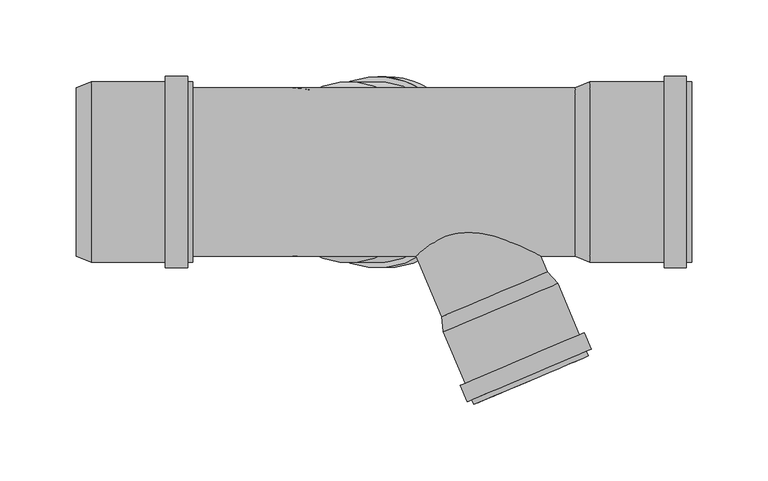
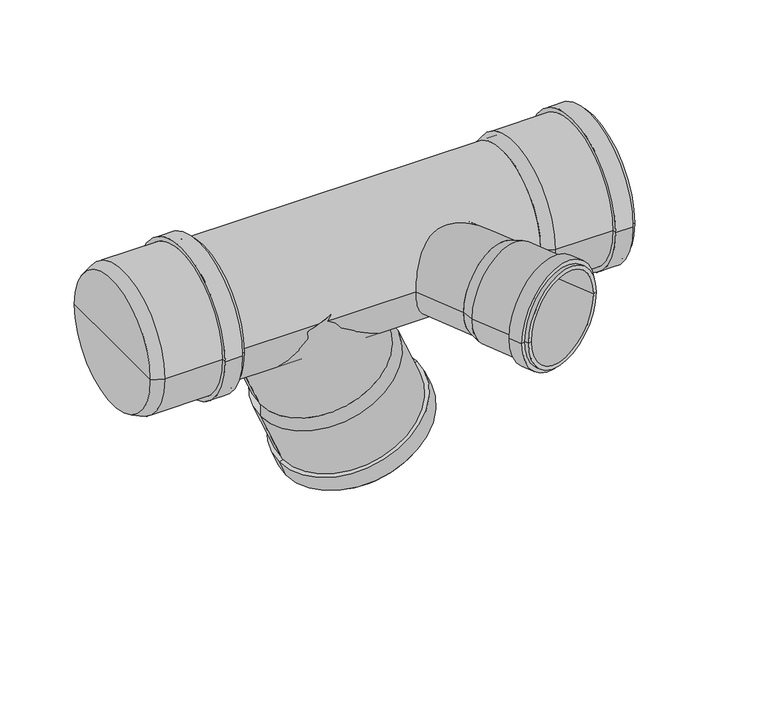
"""IFC4 building model written with IfcOpenShell, lengths in millimetres: pipe fitting geometry, pf_HTEP : pf_HTEP."""

from ifc_helpers import new_model, si_unit, point, frame, origin, origin_2d, place, context, project, spatial, polyline, circle_curve, trimmed, segment, composite_curve, outline, extrude, source, transform, mapped, element, save
from ifc_brep_helpers import plane_surface, cylinder_surface, revolved_surface, advanced_brep


def pipe_fitting_e290757c(model_context):
    return source(origin(), model_context, "Body", "SolidModel", [
        advanced_brep(
        [(-116.0017177, 0.0, -98.3523673), (-14.7461838, 0.0, -55.3719432), (-7.2601682, 0.0, -62.5147417), (-116.0638419, 0.0, -108.6991611), (-65.3739508, 0.0, -76.8621553), (-90.0802218, 0.0, -169.9127338), (18.7234518, 0.0, -123.7283144), (14.9493819, 0.0, -125.3303121), (-86.3061519, 0.0, -168.3107362), (-91.4087077, 0.0, -166.7830173), (17.394966, 0.0, -120.5985979), (-94.5384242, 0.0, -168.1115032), (20.5246825, 0.0, -119.2701121), (-100.2040255, 0.0, -154.7641828), (14.8590811, 0.0, -105.9227917), (-97.074309, 0.0, -153.4356969), (11.7293646, 0.0, -107.2512776), (-112.289772, 0.0, -107.0971634), (-11.0342381, 0.0, -64.1167393), (-61.6620051, 0.0, -85.6069514)],
        [
            (0, 1, circle_curve(frame((-65.3739508, 0.0, -76.8621553), z_axis=(0.39073112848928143, 0.0, -0.920504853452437), x_axis=(0.920504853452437, 0.0, 0.39073112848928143)), 55.0)),
            (1, 2),
            (2, 3, circle_curve(frame((-61.6620051, 0.0, -85.6069514), z_axis=(-0.39073112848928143, 0.0, 0.920504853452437), x_axis=(0.920504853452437, 0.0, 0.39073112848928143)), 59.1)),
            (3, 0),
            (1, 0, circle_curve(frame((-65.3739508, 0.0, -76.8621553), z_axis=(0.39073112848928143, 0.0, -0.920504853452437), x_axis=(0.920504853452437, 0.0, 0.39073112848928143)), 55.0)),
            (3, 2, circle_curve(frame((-61.6620051, 0.0, -85.6069514), z_axis=(-0.39073112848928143, 0.0, 0.920504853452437), x_axis=(0.920504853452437, 0.0, 0.39073112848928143)), 59.1)),
            (4, 1),
            (0, 4),
            (5, 6, circle_curve(frame((-35.678385, 0.0, -146.8205241), z_axis=(0.39073112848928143, 0.0, -0.920504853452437), x_axis=(0.920504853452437, 0.0, 0.39073112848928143)), 59.1)),
            (6, 7),
            (7, 8, circle_curve(frame((-35.678385, 0.0, -146.8205241), z_axis=(-0.39073112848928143, 0.0, 0.920504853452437), x_axis=(0.920504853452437, 0.0, 0.39073112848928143)), 55.0)),
            (8, 5),
            (6, 5, circle_curve(frame((-35.678385, 0.0, -146.8205241), z_axis=(0.39073112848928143, 0.0, -0.920504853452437), x_axis=(0.920504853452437, 0.0, 0.39073112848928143)), 59.1)),
            (8, 7, circle_curve(frame((-35.678385, 0.0, -146.8205241), z_axis=(-0.39073112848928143, 0.0, 0.920504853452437), x_axis=(0.920504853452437, 0.0, 0.39073112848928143)), 55.0)),
            (9, 10, circle_curve(frame((-37.0068708, 0.0, -143.6908076), z_axis=(0.39073112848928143, 0.0, -0.920504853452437), x_axis=(0.920504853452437, 0.0, 0.39073112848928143)), 59.1)),
            (10, 6),
            (5, 9),
            (10, 9, circle_curve(frame((-37.0068708, 0.0, -143.6908076), z_axis=(0.39073112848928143, 0.0, -0.920504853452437), x_axis=(0.920504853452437, 0.0, 0.39073112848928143)), 59.1)),
            (11, 12, circle_curve(frame((-37.0068708, 0.0, -143.6908076), z_axis=(0.39073112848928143, 0.0, -0.920504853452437), x_axis=(0.920504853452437, 0.0, 0.39073112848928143)), 62.5)),
            (12, 10),
            (9, 11),
            (12, 11, circle_curve(frame((-37.0068708, 0.0, -143.6908076), z_axis=(0.39073112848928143, 0.0, -0.920504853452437), x_axis=(0.920504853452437, 0.0, 0.39073112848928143)), 62.5)),
            (13, 14, circle_curve(frame((-42.6724722, 0.0, -130.3434872), z_axis=(0.39073112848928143, 0.0, -0.920504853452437), x_axis=(0.920504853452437, 0.0, 0.39073112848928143)), 62.5)),
            (14, 12),
            (11, 13),
            (14, 13, circle_curve(frame((-42.6724722, 0.0, -130.3434872), z_axis=(0.39073112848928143, 0.0, -0.920504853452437), x_axis=(0.920504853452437, 0.0, 0.39073112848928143)), 62.5)),
            (15, 16, circle_curve(frame((-42.6724722, 0.0, -130.3434872), z_axis=(0.39073112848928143, 0.0, -0.920504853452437), x_axis=(0.920504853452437, 0.0, 0.39073112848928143)), 59.1)),
            (16, 14),
            (13, 15),
            (16, 15, circle_curve(frame((-42.6724722, 0.0, -130.3434872), z_axis=(0.39073112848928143, 0.0, -0.920504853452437), x_axis=(0.920504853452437, 0.0, 0.39073112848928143)), 59.1)),
            (2, 16),
            (15, 3),
            (17, 18, circle_curve(frame((-61.6620051, 0.0, -85.6069514), z_axis=(0.39073112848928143, 0.0, -0.920504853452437), x_axis=(0.920504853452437, 0.0, 0.39073112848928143)), 55.0)),
            (18, 19),
            (19, 17),
            (18, 17, circle_curve(frame((-61.6620051, 0.0, -85.6069514), z_axis=(0.39073112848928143, 0.0, -0.920504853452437), x_axis=(0.920504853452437, 0.0, 0.39073112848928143)), 55.0)),
            (7, 18),
            (17, 8),
        ],
        [
            revolved_surface(polyline([(-7.2601682, 0.0, -62.5147417), (-14.7461838, 0.0, -55.3719432)]), (-65.3739508, 0.0, -76.8621553), (-0.39073112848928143, 0.0, 0.920504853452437)),
            plane_surface(frame((-65.3739508, 0.0, -76.8621553), z_axis=(-0.39073112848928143, 0.0, 0.920504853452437), x_axis=(0.920504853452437, 0.0, 0.39073112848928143))),
            plane_surface(frame((-35.678385, 0.0, -146.8205241), z_axis=(0.39073112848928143, 0.0, -0.920504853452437), x_axis=(0.920504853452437, 0.0, 0.39073112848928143))),
            cylinder_surface(frame((-65.3739508, 0.0, -76.8621553), z_axis=(-0.39073112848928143, 0.0, 0.920504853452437), x_axis=(0.920504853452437, 0.0, 0.39073112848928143)), 59.1),
            plane_surface(frame((-37.0068708, 0.0, -143.6908076), z_axis=(0.39073112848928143, 0.0, -0.920504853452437), x_axis=(0.920504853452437, 0.0, 0.39073112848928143))),
            cylinder_surface(frame((-65.3739508, 0.0, -76.8621553), z_axis=(-0.39073112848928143, 0.0, 0.920504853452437), x_axis=(0.920504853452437, 0.0, 0.39073112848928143)), 62.5),
            plane_surface(frame((-42.6724722, 0.0, -130.3434872), z_axis=(-0.39073112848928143, 0.0, 0.920504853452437), x_axis=(0.920504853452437, 0.0, 0.39073112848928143))),
            plane_surface(frame((-61.6620051, 0.0, -85.6069514), z_axis=(0.39073112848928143, 0.0, -0.920504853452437), x_axis=(0.920504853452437, 0.0, 0.39073112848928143))),
            revolved_surface(polyline([(-11.03423816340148, 0.0, -64.11673928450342), (14.949381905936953, 0.0, -125.33031209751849)]), (-65.3739508, 0.0, -76.8621553), (-0.39073112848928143, 0.0, 0.920504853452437)),
        ],
        [
            (0, [[1, 2, 3, 4]]),
            (0, [[5, -4, 6, -2]]),
            (1, [[7, -1, 8]]),
            (1, [[-8, -5, -7]]),
            (2, [[9, 10, 11, 12]]),
            (2, [[13, -12, 14, -10]]),
            (3, [[15, 16, -9, 17]]),
            (3, [[18, -17, -13, -16]]),
            (4, [[19, 20, -15, 21]]),
            (4, [[22, -21, -18, -20]]),
            (5, [[23, 24, -19, 25]]),
            (5, [[26, -25, -22, -24]]),
            (6, [[27, 28, -23, 29]]),
            (6, [[30, -29, -26, -28]]),
            (3, [[-3, 31, -27, 32]]),
            (3, [[-6, -32, -30, -31]]),
            (7, [[33, 34, 35]]),
            (7, [[36, -35, -34]]),
            (8, [[-11, 37, -33, 38]]),
            (8, [[-14, -38, -36, -37]]),
        ],
    ),
        advanced_brep(
        [(-0.6034701, -94.5522386, 0.0), (68.434394, -65.247404, 0.0), (74.9999047, -72.7809336, 0.0), (0.2549106, -104.5083012, 0.0), (33.915462, -79.8998213, 0.0), (20.3775637, -151.9143012, 0.0), (95.1225578, -120.1869335, 0.0), (92.2689928, -121.3982, 0.0), (23.2311288, -150.7030347, 0.0), (19.0490779, -148.7845847, 0.0), (93.794072, -117.057217, 0.0), (15.9193614, -150.1130705, 0.0), (96.9237885, -115.7287312, 0.0), (11.3868803, -139.4352142, 0.0), (92.3913074, -105.0508749, 0.0), (14.5165968, -138.1067284, 0.0), (89.2615909, -106.3793607, 0.0), (3.1084757, -103.2970347, 0.0), (72.1463397, -73.9922001, 0.0), (37.6274077, -88.6446174, 0.0)],
        [
            (0, 1, circle_curve(frame((33.915462, -79.8998213, 0.0), z_axis=(0.3907311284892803, -0.9205048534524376, 0.0), x_axis=(0.9205048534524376, 0.3907311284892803, 0.0)), 37.5)),
            (1, 2),
            (2, 3, circle_curve(frame((37.6274077, -88.6446174, 0.0), z_axis=(-0.3907311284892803, 0.9205048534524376, 0.0), x_axis=(0.9205048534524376, 0.3907311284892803, 0.0)), 40.6)),
            (3, 0),
            (1, 0, circle_curve(frame((33.915462, -79.8998213, 0.0), z_axis=(0.3907311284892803, -0.9205048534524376, 0.0), x_axis=(0.9205048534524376, 0.3907311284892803, 0.0)), 37.5)),
            (3, 2, circle_curve(frame((37.6274077, -88.6446174, 0.0), z_axis=(-0.3907311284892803, 0.9205048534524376, 0.0), x_axis=(0.9205048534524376, 0.3907311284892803, 0.0)), 40.6)),
            (4, 1),
            (0, 4),
            (5, 6, circle_curve(frame((57.7500608, -136.0506173, 0.0), z_axis=(0.3907311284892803, -0.9205048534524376, 0.0), x_axis=(0.9205048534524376, 0.3907311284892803, 0.0)), 40.6)),
            (6, 7),
            (7, 8, circle_curve(frame((57.7500608, -136.0506173, 0.0), z_axis=(-0.3907311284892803, 0.9205048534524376, 0.0), x_axis=(0.9205048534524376, 0.3907311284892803, 0.0)), 37.5)),
            (8, 5),
            (6, 5, circle_curve(frame((57.7500608, -136.0506173, 0.0), z_axis=(0.3907311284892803, -0.9205048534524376, 0.0), x_axis=(0.9205048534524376, 0.3907311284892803, 0.0)), 40.6)),
            (8, 7, circle_curve(frame((57.7500608, -136.0506173, 0.0), z_axis=(-0.3907311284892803, 0.9205048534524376, 0.0), x_axis=(0.9205048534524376, 0.3907311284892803, 0.0)), 37.5)),
            (9, 10, circle_curve(frame((56.421575, -132.9209008, 0.0), z_axis=(0.3907311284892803, -0.9205048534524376, 0.0), x_axis=(0.9205048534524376, 0.3907311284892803, 0.0)), 40.6)),
            (10, 6),
            (5, 9),
            (10, 9, circle_curve(frame((56.421575, -132.9209008, 0.0), z_axis=(0.3907311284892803, -0.9205048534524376, 0.0), x_axis=(0.9205048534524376, 0.3907311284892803, 0.0)), 40.6)),
            (11, 12, circle_curve(frame((56.421575, -132.9209008, 0.0), z_axis=(0.3907311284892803, -0.9205048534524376, 0.0), x_axis=(0.9205048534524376, 0.3907311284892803, 0.0)), 44.0)),
            (12, 10),
            (9, 11),
            (12, 11, circle_curve(frame((56.421575, -132.9209008, 0.0), z_axis=(0.3907311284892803, -0.9205048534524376, 0.0), x_axis=(0.9205048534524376, 0.3907311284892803, 0.0)), 44.0)),
            (13, 14, circle_curve(frame((51.8890939, -122.2430445, 0.0), z_axis=(0.3907311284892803, -0.9205048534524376, 0.0), x_axis=(0.9205048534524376, 0.3907311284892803, 0.0)), 44.0)),
            (14, 12),
            (11, 13),
            (14, 13, circle_curve(frame((51.8890939, -122.2430445, 0.0), z_axis=(0.3907311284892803, -0.9205048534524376, 0.0), x_axis=(0.9205048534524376, 0.3907311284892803, 0.0)), 44.0)),
            (15, 16, circle_curve(frame((51.8890939, -122.2430445, 0.0), z_axis=(0.3907311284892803, -0.9205048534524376, 0.0), x_axis=(0.9205048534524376, 0.3907311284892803, 0.0)), 40.6)),
            (16, 14),
            (13, 15),
            (16, 15, circle_curve(frame((51.8890939, -122.2430445, 0.0), z_axis=(0.3907311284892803, -0.9205048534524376, 0.0), x_axis=(0.9205048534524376, 0.3907311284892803, 0.0)), 40.6)),
            (2, 16),
            (15, 3),
            (17, 18, circle_curve(frame((37.6274077, -88.6446174, 0.0), z_axis=(0.3907311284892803, -0.9205048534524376, 0.0), x_axis=(0.9205048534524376, 0.3907311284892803, 0.0)), 37.5)),
            (18, 19),
            (19, 17),
            (18, 17, circle_curve(frame((37.6274077, -88.6446174, 0.0), z_axis=(0.3907311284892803, -0.9205048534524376, 0.0), x_axis=(0.9205048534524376, 0.3907311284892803, 0.0)), 37.5)),
            (7, 18),
            (17, 8),
        ],
        [
            revolved_surface(polyline([(74.9999047, -72.7809336, 0.0), (68.434394, -65.247404, 0.0)]), (33.915462, -79.8998213, 0.0), (-0.3907311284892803, 0.9205048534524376, 0.0)),
            plane_surface(frame((33.915462, -79.8998213, 0.0), z_axis=(-0.3907311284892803, 0.9205048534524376, 0.0), x_axis=(0.9205048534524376, 0.3907311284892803, 0.0))),
            plane_surface(frame((57.7500608, -136.0506173, 0.0), z_axis=(0.3907311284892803, -0.9205048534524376, 0.0), x_axis=(0.9205048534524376, 0.3907311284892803, 0.0))),
            cylinder_surface(frame((33.915462, -79.8998213, 0.0), z_axis=(-0.3907311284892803, 0.9205048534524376, 0.0), x_axis=(0.9205048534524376, 0.3907311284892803, 0.0)), 40.6),
            plane_surface(frame((56.421575, -132.9209008, 0.0), z_axis=(0.3907311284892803, -0.9205048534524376, 0.0), x_axis=(0.9205048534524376, 0.3907311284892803, 0.0))),
            cylinder_surface(frame((33.915462, -79.8998213, 0.0), z_axis=(-0.3907311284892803, 0.9205048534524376, 0.0), x_axis=(0.9205048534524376, 0.3907311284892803, 0.0)), 44.0),
            plane_surface(frame((51.8890939, -122.2430445, 0.0), z_axis=(-0.3907311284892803, 0.9205048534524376, 0.0), x_axis=(0.9205048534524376, 0.3907311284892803, 0.0))),
            plane_surface(frame((37.6274077, -88.6446174, 0.0), z_axis=(0.3907311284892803, -0.9205048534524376, 0.0), x_axis=(0.9205048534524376, 0.3907311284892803, 0.0))),
            revolved_surface(polyline([(72.14633971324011, -73.99220006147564, 0.0), (92.26899284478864, -121.39820004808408, 0.0)]), (33.915462, -79.8998213, 0.0), (-0.3907311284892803, 0.9205048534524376, 0.0)),
        ],
        [
            (0, [[1, 2, 3, 4]]),
            (0, [[5, -4, 6, -2]]),
            (1, [[7, -1, 8]]),
            (1, [[-8, -5, -7]]),
            (2, [[9, 10, 11, 12]]),
            (2, [[13, -12, 14, -10]]),
            (3, [[15, 16, -9, 17]]),
            (3, [[18, -17, -13, -16]]),
            (4, [[19, 20, -15, 21]]),
            (4, [[22, -21, -18, -20]]),
            (5, [[23, 24, -19, 25]]),
            (5, [[26, -25, -22, -24]]),
            (6, [[27, 28, -23, 29]]),
            (6, [[30, -29, -26, -28]]),
            (3, [[-3, 31, -27, 32]]),
            (3, [[-6, -32, -30, -31]]),
            (7, [[33, 34, 35]]),
            (7, [[36, -35, -34]]),
            (8, [[-11, 37, -33, 38]]),
            (8, [[-14, -38, -36, -37]]),
        ],
    ),
        advanced_brep(
        [(86.6, -55.0, 0.0), (86.6, 55.0, 0.0), (96.1, 59.1, 0.0), (96.1, -59.1, 0.0), (86.6, 0.0, 0.0), (162.6, -59.1, 0.0), (162.6, 59.1, 0.0), (162.6, 55.0, 0.0), (162.6, -55.0, 0.0), (159.2, -59.1, 0.0), (159.2, 59.1, 0.0), (159.2, -62.5, 0.0), (159.2, 62.5, 0.0), (144.7, -62.5, 0.0), (144.7, 62.5, 0.0), (144.7, -59.1, 0.0), (144.7, 59.1, 0.0), (96.1, -55.0, 0.0), (96.1, 55.0, 0.0), (96.1, 0.0, 0.0)],
        [
            (0, 1, circle_curve(frame((86.6, 0.0, 0.0), z_axis=(1.0, 0.0, 0.0), x_axis=(0.0, 1.0, 0.0)), 55.0)),
            (1, 2),
            (2, 3, circle_curve(frame((96.1, 0.0, 0.0), z_axis=(-1.0, 0.0, 0.0), x_axis=(0.0, 1.0, 0.0)), 59.1)),
            (3, 0),
            (1, 0, circle_curve(frame((86.6, 0.0, 0.0), z_axis=(1.0, 0.0, 0.0), x_axis=(0.0, 1.0, 0.0)), 55.0)),
            (3, 2, circle_curve(frame((96.1, 0.0, 0.0), z_axis=(-1.0, 0.0, 0.0), x_axis=(0.0, 1.0, 0.0)), 59.1)),
            (4, 1),
            (0, 4),
            (5, 6, circle_curve(frame((162.6, 0.0, 0.0), z_axis=(1.0, 0.0, 0.0), x_axis=(0.0, 1.0, 0.0)), 59.1)),
            (6, 7),
            (7, 8, circle_curve(frame((162.6, 0.0, 0.0), z_axis=(-1.0, 0.0, 0.0), x_axis=(0.0, 1.0, 0.0)), 55.0)),
            (8, 5),
            (6, 5, circle_curve(frame((162.6, 0.0, 0.0), z_axis=(1.0, 0.0, 0.0), x_axis=(0.0, 1.0, 0.0)), 59.1)),
            (8, 7, circle_curve(frame((162.6, 0.0, 0.0), z_axis=(-1.0, 0.0, 0.0), x_axis=(0.0, 1.0, 0.0)), 55.0)),
            (9, 10, circle_curve(frame((159.2, 0.0, 0.0), z_axis=(1.0, 0.0, 0.0), x_axis=(0.0, 1.0, 0.0)), 59.1)),
            (10, 6),
            (5, 9),
            (10, 9, circle_curve(frame((159.2, 0.0, 0.0), z_axis=(1.0, 0.0, 0.0), x_axis=(0.0, 1.0, 0.0)), 59.1)),
            (11, 12, circle_curve(frame((159.2, 0.0, 0.0), z_axis=(1.0, 0.0, 0.0), x_axis=(0.0, 1.0, 0.0)), 62.5)),
            (12, 10),
            (9, 11),
            (12, 11, circle_curve(frame((159.2, 0.0, 0.0), z_axis=(1.0, 0.0, 0.0), x_axis=(0.0, 1.0, 0.0)), 62.5)),
            (13, 14, circle_curve(frame((144.7, 0.0, 0.0), z_axis=(1.0, 0.0, 0.0), x_axis=(0.0, 1.0, 0.0)), 62.5)),
            (14, 12),
            (11, 13),
            (14, 13, circle_curve(frame((144.7, 0.0, 0.0), z_axis=(1.0, 0.0, 0.0), x_axis=(0.0, 1.0, 0.0)), 62.5)),
            (15, 16, circle_curve(frame((144.7, 0.0, 0.0), z_axis=(1.0, 0.0, 0.0), x_axis=(0.0, 1.0, 0.0)), 59.1)),
            (16, 14),
            (13, 15),
            (16, 15, circle_curve(frame((144.7, 0.0, 0.0), z_axis=(1.0, 0.0, 0.0), x_axis=(0.0, 1.0, 0.0)), 59.1)),
            (2, 16),
            (15, 3),
            (17, 18, circle_curve(frame((96.1, 0.0, 0.0), z_axis=(1.0, 0.0, 0.0), x_axis=(0.0, 1.0, 0.0)), 55.0)),
            (18, 19),
            (19, 17),
            (18, 17, circle_curve(frame((96.1, 0.0, 0.0), z_axis=(1.0, 0.0, 0.0), x_axis=(0.0, 1.0, 0.0)), 55.0)),
            (7, 18),
            (17, 8),
        ],
        [
            revolved_surface(polyline([(96.1, 59.1, 0.0), (86.6, 55.0, 0.0)]), (86.6, 0.0, 0.0), (-1.0, 0.0, 0.0)),
            plane_surface(frame((86.6, 0.0, 0.0), z_axis=(-1.0, 0.0, 0.0), x_axis=(0.0, 1.0, 0.0))),
            plane_surface(frame((162.6, 0.0, 0.0), z_axis=(1.0, 0.0, 0.0), x_axis=(0.0, 1.0, 0.0))),
            cylinder_surface(frame((86.6, 0.0, 0.0), z_axis=(-1.0, 0.0, 0.0), x_axis=(0.0, 1.0, 0.0)), 59.1),
            plane_surface(frame((159.2, 0.0, 0.0), z_axis=(1.0, 0.0, 0.0), x_axis=(0.0, 1.0, 0.0))),
            cylinder_surface(frame((86.6, 0.0, 0.0), z_axis=(-1.0, 0.0, 0.0), x_axis=(0.0, 1.0, 0.0)), 62.5),
            plane_surface(frame((144.7, 0.0, 0.0), z_axis=(-1.0, 0.0, 0.0), x_axis=(0.0, 1.0, 0.0))),
            plane_surface(frame((96.1, 0.0, 0.0), z_axis=(1.0, 0.0, 0.0), x_axis=(0.0, 1.0, 0.0))),
            revolved_surface(polyline([(96.1, 55.0, 0.0), (162.6, 55.0, 0.0)]), (86.6, 0.0, 0.0), (-1.0, 0.0, 0.0)),
        ],
        [
            (0, [[1, 2, 3, 4]]),
            (0, [[5, -4, 6, -2]]),
            (1, [[7, -1, 8]]),
            (1, [[-8, -5, -7]]),
            (2, [[9, 10, 11, 12]]),
            (2, [[13, -12, 14, -10]]),
            (3, [[15, 16, -9, 17]]),
            (3, [[18, -17, -13, -16]]),
            (4, [[19, 20, -15, 21]]),
            (4, [[22, -21, -18, -20]]),
            (5, [[23, 24, -19, 25]]),
            (5, [[26, -25, -22, -24]]),
            (6, [[27, 28, -23, 29]]),
            (6, [[30, -29, -26, -28]]),
            (3, [[-3, 31, -27, 32]]),
            (3, [[-6, -32, -30, -31]]),
            (7, [[33, 34, 35]]),
            (7, [[36, -35, -34]]),
            (8, [[-11, 37, -33, 38]]),
            (8, [[-14, -38, -36, -37]]),
        ],
    ),
        advanced_brep(
        [(-239.5, -55.0, 0.0), (-239.5, 55.0, 0.0), (-230.0, 59.1, 0.0), (-230.0, -59.1, 0.0), (-239.5, 0.0, 0.0), (-163.5, -59.1, 0.0), (-163.5, 59.1, 0.0), (-163.5, 55.0, 0.0), (-163.5, -55.0, 0.0), (-166.9, -59.1, 0.0), (-166.9, 59.1, 0.0), (-166.9, -62.5, 0.0), (-166.9, 62.5, 0.0), (-181.4, -62.5, 0.0), (-181.4, 62.5, 0.0), (-181.4, -59.1, 0.0), (-181.4, 59.1, 0.0), (-230.0, -55.0, 0.0), (-230.0, 55.0, 0.0), (-230.0, 0.0, 0.0)],
        [
            (0, 1, circle_curve(frame((-239.5, 0.0, 0.0), z_axis=(1.0, 0.0, 0.0), x_axis=(0.0, 1.0, 0.0)), 55.0)),
            (1, 2),
            (2, 3, circle_curve(frame((-230.0, 0.0, 0.0), z_axis=(-1.0, 0.0, 0.0), x_axis=(0.0, 1.0, 0.0)), 59.1)),
            (3, 0),
            (1, 0, circle_curve(frame((-239.5, 0.0, 0.0), z_axis=(1.0, 0.0, 0.0), x_axis=(0.0, 1.0, 0.0)), 55.0)),
            (3, 2, circle_curve(frame((-230.0, 0.0, 0.0), z_axis=(-1.0, 0.0, 0.0), x_axis=(0.0, 1.0, 0.0)), 59.1)),
            (4, 1),
            (0, 4),
            (5, 6, circle_curve(frame((-163.5, 0.0, 0.0), z_axis=(1.0, 0.0, 0.0), x_axis=(0.0, 1.0, 0.0)), 59.1)),
            (6, 7),
            (7, 8, circle_curve(frame((-163.5, 0.0, 0.0), z_axis=(-1.0, 0.0, 0.0), x_axis=(0.0, 1.0, 0.0)), 55.0)),
            (8, 5),
            (6, 5, circle_curve(frame((-163.5, 0.0, 0.0), z_axis=(1.0, 0.0, 0.0), x_axis=(0.0, 1.0, 0.0)), 59.1)),
            (8, 7, circle_curve(frame((-163.5, 0.0, 0.0), z_axis=(-1.0, 0.0, 0.0), x_axis=(0.0, 1.0, 0.0)), 55.0)),
            (9, 10, circle_curve(frame((-166.9, 0.0, 0.0), z_axis=(1.0, 0.0, 0.0), x_axis=(0.0, 1.0, 0.0)), 59.1)),
            (10, 6),
            (5, 9),
            (10, 9, circle_curve(frame((-166.9, 0.0, 0.0), z_axis=(1.0, 0.0, 0.0), x_axis=(0.0, 1.0, 0.0)), 59.1)),
            (11, 12, circle_curve(frame((-166.9, 0.0, 0.0), z_axis=(1.0, 0.0, 0.0), x_axis=(0.0, 1.0, 0.0)), 62.5)),
            (12, 10),
            (9, 11),
            (12, 11, circle_curve(frame((-166.9, 0.0, 0.0), z_axis=(1.0, 0.0, 0.0), x_axis=(0.0, 1.0, 0.0)), 62.5)),
            (13, 14, circle_curve(frame((-181.4, 0.0, 0.0), z_axis=(1.0, 0.0, 0.0), x_axis=(0.0, 1.0, 0.0)), 62.5)),
            (14, 12),
            (11, 13),
            (14, 13, circle_curve(frame((-181.4, 0.0, 0.0), z_axis=(1.0, 0.0, 0.0), x_axis=(0.0, 1.0, 0.0)), 62.5)),
            (15, 16, circle_curve(frame((-181.4, 0.0, 0.0), z_axis=(1.0, 0.0, 0.0), x_axis=(0.0, 1.0, 0.0)), 59.1)),
            (16, 14),
            (13, 15),
            (16, 15, circle_curve(frame((-181.4, 0.0, 0.0), z_axis=(1.0, 0.0, 0.0), x_axis=(0.0, 1.0, 0.0)), 59.1)),
            (2, 16),
            (15, 3),
            (17, 18, circle_curve(frame((-230.0, 0.0, 0.0), z_axis=(1.0, 0.0, 0.0), x_axis=(0.0, 1.0, 0.0)), 55.0)),
            (18, 19),
            (19, 17),
            (18, 17, circle_curve(frame((-230.0, 0.0, 0.0), z_axis=(1.0, 0.0, 0.0), x_axis=(0.0, 1.0, 0.0)), 55.0)),
            (7, 18),
            (17, 8),
        ],
        [
            revolved_surface(polyline([(-230.0, 59.1, 0.0), (-239.5, 55.0, 0.0)]), (-239.5, 0.0, 0.0), (-1.0, 0.0, 0.0)),
            plane_surface(frame((-239.5, 0.0, 0.0), z_axis=(-1.0, 0.0, 0.0), x_axis=(0.0, 1.0, 0.0))),
            plane_surface(frame((-163.5, 0.0, 0.0), z_axis=(1.0, 0.0, 0.0), x_axis=(0.0, 1.0, 0.0))),
            cylinder_surface(frame((-239.5, 0.0, 0.0), z_axis=(-1.0, 0.0, 0.0), x_axis=(0.0, 1.0, 0.0)), 59.1),
            plane_surface(frame((-166.9, 0.0, 0.0), z_axis=(1.0, 0.0, 0.0), x_axis=(0.0, 1.0, 0.0))),
            cylinder_surface(frame((-239.5, 0.0, 0.0), z_axis=(-1.0, 0.0, 0.0), x_axis=(0.0, 1.0, 0.0)), 62.5),
            plane_surface(frame((-181.4, 0.0, 0.0), z_axis=(-1.0, 0.0, 0.0), x_axis=(0.0, 1.0, 0.0))),
            plane_surface(frame((-230.0, 0.0, 0.0), z_axis=(1.0, 0.0, 0.0), x_axis=(0.0, 1.0, 0.0))),
            revolved_surface(polyline([(-230.0, 55.0, 0.0), (-163.5, 55.0, 0.0)]), (-239.5, 0.0, 0.0), (-1.0, 0.0, 0.0)),
        ],
        [
            (0, [[1, 2, 3, 4]]),
            (0, [[5, -4, 6, -2]]),
            (1, [[7, -1, 8]]),
            (1, [[-8, -5, -7]]),
            (2, [[9, 10, 11, 12]]),
            (2, [[13, -12, 14, -10]]),
            (3, [[15, 16, -9, 17]]),
            (3, [[18, -17, -13, -16]]),
            (4, [[19, 20, -15, 21]]),
            (4, [[22, -21, -18, -20]]),
            (5, [[23, 24, -19, 25]]),
            (5, [[26, -25, -22, -24]]),
            (6, [[27, 28, -23, 29]]),
            (6, [[30, -29, -26, -28]]),
            (3, [[-3, 31, -27, 32]]),
            (3, [[-6, -32, -30, -31]]),
            (7, [[33, 34, 35]]),
            (7, [[36, -35, -34]]),
            (8, [[-11, 37, -33, 38]]),
            (8, [[-14, -38, -36, -37]]),
        ],
    ),
        extrude(outline(composite_curve([segment(trimmed(circle_curve(origin_2d(), 55.0), [point((0.0, -54.9999999))], [point((0.0, 55.0000001))], False, "CARTESIAN"), True, "CONTINUOUS"), segment(trimmed(circle_curve(origin_2d(), 55.0), [point((0.0, 55.0000001))], [point((0.0, -54.9999999))], False, "CARTESIAN"), True, "CONTINUOUS")], self_intersect=False)), frame((-65.3739508, 0.0, -76.8621553), z_axis=(-0.39073112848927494, 0.0, 0.9205048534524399), x_axis=(0.0, -1.0, 0.0)), (0.0, 0.0, 1.0), 83.5),
        extrude(outline(composite_curve([segment(trimmed(circle_curve(origin_2d(), 37.5), [point((0.0, -37.5000001))], [point((0.0, 37.5))], False, "CARTESIAN"), True, "CONTINUOUS"), segment(trimmed(circle_curve(origin_2d(), 37.5), [point((0.0, 37.5))], [point((0.0, -37.5000001))], False, "CARTESIAN"), True, "CONTINUOUS")], self_intersect=False)), frame((33.915462, -79.8998213, 0.0), z_axis=(-0.390731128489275, 0.9205048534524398, 0.0), x_axis=(0.0, 0.0, 1.0)), (0.0, 0.0, 1.0), 86.8),
        extrude(outline(composite_curve([segment(trimmed(circle_curve(origin_2d(), 55.0), [point((-55.0, 0.0))], [point((55.0, 0.0))], False, "CARTESIAN"), True, "CONTINUOUS"), segment(trimmed(circle_curve(origin_2d(), 55.0), [point((55.0, 0.0))], [point((-55.0, 0.0))], False, "CARTESIAN"), True, "CONTINUOUS")], self_intersect=False)), frame((-163.5, 0.0, 0.0), z_axis=(1.0, 0.0, 0.0), x_axis=(0.0, 1.0, 0.0)), (0.0, 0.0, 1.0), 250.1),
    ])


if __name__ == "__main__":
    model = new_model("IFC4")
    model_context = context("Model", 3, world=origin())
    ifc_project = project(units=[si_unit("LENGTHUNIT", "METRE", prefix="MILLI")], contexts=[model_context])
    site = spatial("IfcSite", under=ifc_project)
    building = spatial("IfcBuilding", under=site)
    placement = place(None, origin())
    pipe_fitting_shape = pipe_fitting_e290757c(model_context)
    element("IfcPipeFitting", 1, ObjectType="pf_HTEP : pf_HTEP", at=placement, inside=building, context=model_context, shape_type="MappedRepresentation", body=[
        mapped(pipe_fitting_shape, transform((0.0, 0.0, 0.0), x_axis=(1.0, 0.0, 0.0), y_axis=(0.0, 1.0, 0.0), z_axis=(0.0, 0.0, 1.0))),
    ])
    save(model, "model.ifc")
